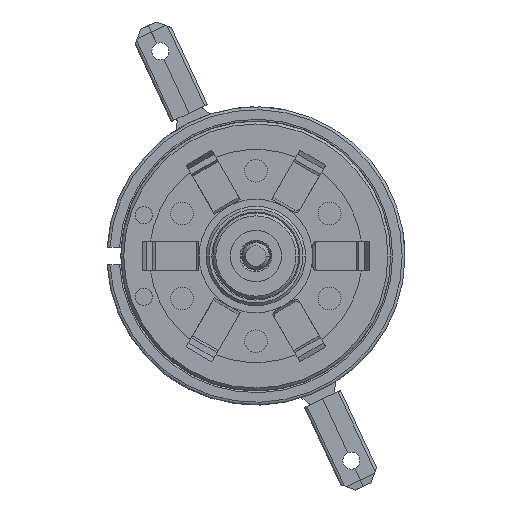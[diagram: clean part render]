
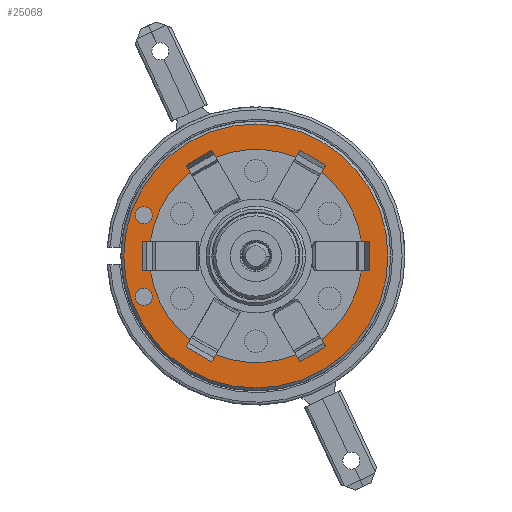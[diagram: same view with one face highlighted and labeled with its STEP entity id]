
A CAD part, left-side view. The second image highlights one B-rep face of the part: STEP entity #25068.
In plain terms, the highlighted planar face has unit normal (-1, 0, 0).
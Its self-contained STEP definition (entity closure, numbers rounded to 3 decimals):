
#7303=CARTESIAN_POINT('',(0.,0.,0.));
#7304=DIRECTION('',(-1.,0.,0.));
#7305=DIRECTION('',(0.,-1.,0.));
#7306=AXIS2_PLACEMENT_3D('',#7303,#7304,#7305);
#7311=CARTESIAN_POINT('',(0.,0.,0.));
#7312=DIRECTION('',(-1.,0.,0.));
#7313=DIRECTION('',(0.,1.,0.));
#7314=AXIS2_PLACEMENT_3D('',#7311,#7312,#7313);
#7319=CARTESIAN_POINT('',(0.,7.89,-2.87));
#7320=DIRECTION('',(1.,0.,0.));
#7321=DIRECTION('',(0.,1.,0.));
#7322=AXIS2_PLACEMENT_3D('',#7319,#7320,#7321);
#7327=CARTESIAN_POINT('',(0.,7.89,-2.87));
#7328=DIRECTION('',(1.,0.,0.));
#7329=DIRECTION('',(0.,-1.,0.));
#7330=AXIS2_PLACEMENT_3D('',#7327,#7328,#7329);
#7335=CARTESIAN_POINT('',(0.,7.89,2.87));
#7336=DIRECTION('',(1.,0.,0.));
#7337=DIRECTION('',(0.,1.,0.));
#7338=AXIS2_PLACEMENT_3D('',#7335,#7336,#7337);
#7343=CARTESIAN_POINT('',(0.,7.89,2.87));
#7344=DIRECTION('',(1.,0.,0.));
#7345=DIRECTION('',(0.,-1.,0.));
#7346=AXIS2_PLACEMENT_3D('',#7343,#7344,#7345);
#7351=DIRECTION('',(0.,-0.5,0.866));
#7352=VECTOR('',#7351,0.574);
#7353=CARTESIAN_POINT('',(0.,-4.622,5.906));
#7354=LINE('',#7353,#7352);
#7358=DIRECTION('',(0.,0.866,0.5));
#7359=VECTOR('',#7358,2.1);
#7360=CARTESIAN_POINT('',(0.,-4.909,6.403));
#7361=LINE('',#7360,#7359);
#7365=DIRECTION('',(0.,-0.5,0.866));
#7366=VECTOR('',#7365,0.574);
#7367=CARTESIAN_POINT('',(0.,-2.804,6.956));
#7368=LINE('',#7367,#7366);
#7372=DIRECTION('',(0.,0.5,0.866));
#7373=VECTOR('',#7372,0.574);
#7374=CARTESIAN_POINT('',(0.,2.804,6.956));
#7375=LINE('',#7374,#7373);
#7379=DIRECTION('',(0.,0.866,-0.5));
#7380=VECTOR('',#7379,2.1);
#7381=CARTESIAN_POINT('',(0.,3.091,7.453));
#7382=LINE('',#7381,#7380);
#7386=DIRECTION('',(0.,0.5,0.866));
#7387=VECTOR('',#7386,0.574);
#7388=CARTESIAN_POINT('',(0.,4.622,5.906));
#7389=LINE('',#7388,#7387);
#7393=DIRECTION('',(0.,1.,0.));
#7394=VECTOR('',#7393,0.574);
#7395=CARTESIAN_POINT('',(0.,7.426,1.05));
#7396=LINE('',#7395,#7394);
#7400=DIRECTION('',(0.,0.,-1.));
#7401=VECTOR('',#7400,2.1);
#7402=CARTESIAN_POINT('',(0.,8.,1.05));
#7403=LINE('',#7402,#7401);
#7407=DIRECTION('',(0.,1.,0.));
#7408=VECTOR('',#7407,0.574);
#7409=CARTESIAN_POINT('',(0.,7.426,-1.05));
#7410=LINE('',#7409,#7408);
#7414=DIRECTION('',(0.,-0.5,0.866));
#7415=VECTOR('',#7414,0.574);
#7416=CARTESIAN_POINT('',(0.,4.909,-6.403));
#7417=LINE('',#7416,#7415);
#7421=DIRECTION('',(0.,-0.866,-0.5));
#7422=VECTOR('',#7421,2.1);
#7423=CARTESIAN_POINT('',(0.,4.909,-6.403));
#7424=LINE('',#7423,#7422);
#7428=DIRECTION('',(0.,-0.5,0.866));
#7429=VECTOR('',#7428,0.574);
#7430=CARTESIAN_POINT('',(0.,3.091,-7.453));
#7431=LINE('',#7430,#7429);
#7435=DIRECTION('',(0.,0.5,0.866));
#7436=VECTOR('',#7435,0.574);
#7437=CARTESIAN_POINT('',(0.,-3.091,-7.453));
#7438=LINE('',#7437,#7436);
#7442=DIRECTION('',(0.,-0.866,0.5));
#7443=VECTOR('',#7442,2.1);
#7444=CARTESIAN_POINT('',(0.,-3.091,-7.453));
#7445=LINE('',#7444,#7443);
#7449=DIRECTION('',(0.,0.5,0.866));
#7450=VECTOR('',#7449,0.574);
#7451=CARTESIAN_POINT('',(0.,-4.909,-6.403));
#7452=LINE('',#7451,#7450);
#7456=DIRECTION('',(0.,1.,0.));
#7457=VECTOR('',#7456,0.574);
#7458=CARTESIAN_POINT('',(0.,-8.,-1.05));
#7459=LINE('',#7458,#7457);
#7463=DIRECTION('',(0.,0.,1.));
#7464=VECTOR('',#7463,2.1);
#7465=CARTESIAN_POINT('',(0.,-8.,-1.05));
#7466=LINE('',#7465,#7464);
#7470=DIRECTION('',(0.,1.,0.));
#7471=VECTOR('',#7470,0.574);
#7472=CARTESIAN_POINT('',(0.,-8.,1.05));
#7473=LINE('',#7472,#7471);
#8056=CARTESIAN_POINT('',(0.,0.,0.));
#8057=DIRECTION('',(1.,0.,0.));
#8058=DIRECTION('',(0.,-0.616,0.787));
#8059=AXIS2_PLACEMENT_3D('',#8056,#8057,#8058);
#8208=CARTESIAN_POINT('',(0.,0.,0.));
#8209=DIRECTION('',(1.,0.,0.));
#8210=DIRECTION('',(0.,-0.99,-0.14));
#8211=AXIS2_PLACEMENT_3D('',#8208,#8209,#8210);
#8514=CARTESIAN_POINT('',(0.,0.,0.));
#8515=DIRECTION('',(1.,0.,0.));
#8516=DIRECTION('',(0.,-0.374,-0.927));
#8517=AXIS2_PLACEMENT_3D('',#8514,#8515,#8516);
#8770=CARTESIAN_POINT('',(0.,0.,0.));
#8771=DIRECTION('',(1.,0.,0.));
#8772=DIRECTION('',(0.,0.616,-0.787));
#8773=AXIS2_PLACEMENT_3D('',#8770,#8771,#8772);
#8800=CARTESIAN_POINT('',(0.,0.,0.));
#8801=DIRECTION('',(1.,0.,0.));
#8802=DIRECTION('',(0.,0.99,0.14));
#8803=AXIS2_PLACEMENT_3D('',#8800,#8801,#8802);
#9056=CARTESIAN_POINT('',(0.,0.,0.));
#9057=DIRECTION('',(1.,0.,0.));
#9058=DIRECTION('',(0.,0.374,0.927));
#9059=AXIS2_PLACEMENT_3D('',#9056,#9057,#9058);
#15522=CARTESIAN_POINT('',(0.,-9.3,0.));
#15523=CARTESIAN_POINT('',(0.,9.3,0.));
#15524=VERTEX_POINT('',#15522);
#15525=VERTEX_POINT('',#15523);
#15538=CARTESIAN_POINT('',(0.,8.49,-2.87));
#15539=CARTESIAN_POINT('',(0.,7.29,-2.87));
#15540=VERTEX_POINT('',#15538);
#15541=VERTEX_POINT('',#15539);
#15542=CARTESIAN_POINT('',(0.,-8.,-1.05));
#15543=CARTESIAN_POINT('',(0.,-7.426,-1.05));
#15544=VERTEX_POINT('',#15542);
#15545=VERTEX_POINT('',#15543);
#15546=CARTESIAN_POINT('',(0.,-8.,1.05));
#15547=CARTESIAN_POINT('',(0.,-7.426,1.05));
#15548=VERTEX_POINT('',#15546);
#15549=VERTEX_POINT('',#15547);
#15606=CARTESIAN_POINT('',(0.,-3.091,-7.453));
#15607=CARTESIAN_POINT('',(0.,-2.804,-6.956));
#15608=VERTEX_POINT('',#15606);
#15609=VERTEX_POINT('',#15607);
#15610=CARTESIAN_POINT('',(0.,-4.909,-6.403));
#15611=CARTESIAN_POINT('',(0.,-4.622,-5.906));
#15612=VERTEX_POINT('',#15610);
#15613=VERTEX_POINT('',#15611);
#15622=CARTESIAN_POINT('',(0.,4.909,-6.403));
#15623=CARTESIAN_POINT('',(0.,4.622,-5.906));
#15624=VERTEX_POINT('',#15622);
#15625=VERTEX_POINT('',#15623);
#15626=CARTESIAN_POINT('',(0.,3.091,-7.453));
#15627=CARTESIAN_POINT('',(0.,2.804,-6.956));
#15628=VERTEX_POINT('',#15626);
#15629=VERTEX_POINT('',#15627);
#15682=CARTESIAN_POINT('',(0.,8.49,2.87));
#15683=CARTESIAN_POINT('',(0.,7.29,2.87));
#15684=VERTEX_POINT('',#15682);
#15685=VERTEX_POINT('',#15683);
#15742=CARTESIAN_POINT('',(0.,7.426,1.05));
#15743=CARTESIAN_POINT('',(0.,8.,1.05));
#15744=VERTEX_POINT('',#15742);
#15745=VERTEX_POINT('',#15743);
#15746=CARTESIAN_POINT('',(0.,7.426,-1.05));
#15747=CARTESIAN_POINT('',(0.,8.,-1.05));
#15748=VERTEX_POINT('',#15746);
#15749=VERTEX_POINT('',#15747);
#15766=CARTESIAN_POINT('',(0.,2.804,6.956));
#15767=CARTESIAN_POINT('',(0.,3.091,7.453));
#15768=VERTEX_POINT('',#15766);
#15769=VERTEX_POINT('',#15767);
#15770=CARTESIAN_POINT('',(0.,4.622,5.906));
#15771=CARTESIAN_POINT('',(0.,4.909,6.403));
#15772=VERTEX_POINT('',#15770);
#15773=VERTEX_POINT('',#15771);
#15790=CARTESIAN_POINT('',(0.,-4.622,5.906));
#15791=CARTESIAN_POINT('',(0.,-4.909,6.403));
#15792=VERTEX_POINT('',#15790);
#15793=VERTEX_POINT('',#15791);
#15794=CARTESIAN_POINT('',(0.,-2.804,6.956));
#15795=CARTESIAN_POINT('',(0.,-3.091,7.453));
#15796=VERTEX_POINT('',#15794);
#15797=VERTEX_POINT('',#15795);
#24998=CARTESIAN_POINT('',(0.,0.,0.));
#24999=DIRECTION('',(1.,0.,0.));
#25000=DIRECTION('',(0.,-1.,0.));
#25001=AXIS2_PLACEMENT_3D('',#24998,#24999,#25000);
#25002=PLANE('',#25001);
#25004=ORIENTED_EDGE('',*,*,#25003,.F.);
#25006=ORIENTED_EDGE('',*,*,#25005,.F.);
#25007=EDGE_LOOP('',(#25004,#25006));
#25008=FACE_OUTER_BOUND('',#25007,.F.);
#25010=ORIENTED_EDGE('',*,*,#25009,.F.);
#25012=ORIENTED_EDGE('',*,*,#25011,.F.);
#25013=EDGE_LOOP('',(#25010,#25012));
#25014=FACE_BOUND('',#25013,.F.);
#25016=ORIENTED_EDGE('',*,*,#25015,.F.);
#25018=ORIENTED_EDGE('',*,*,#25017,.F.);
#25019=EDGE_LOOP('',(#25016,#25018));
#25020=FACE_BOUND('',#25019,.F.);
#25022=ORIENTED_EDGE('',*,*,#25021,.T.);
#25024=ORIENTED_EDGE('',*,*,#25023,.T.);
#25026=ORIENTED_EDGE('',*,*,#25025,.F.);
#25028=ORIENTED_EDGE('',*,*,#25027,.F.);
#25030=ORIENTED_EDGE('',*,*,#25029,.T.);
#25032=ORIENTED_EDGE('',*,*,#25031,.T.);
#25034=ORIENTED_EDGE('',*,*,#25033,.F.);
#25036=ORIENTED_EDGE('',*,*,#25035,.F.);
#25037=ORIENTED_EDGE('',*,*,#23085,.T.);
#25038=ORIENTED_EDGE('',*,*,#24985,.T.);
#25039=ORIENTED_EDGE('',*,*,#23027,.F.);
#25041=ORIENTED_EDGE('',*,*,#25040,.F.);
#25043=ORIENTED_EDGE('',*,*,#25042,.F.);
#25045=ORIENTED_EDGE('',*,*,#25044,.T.);
#25047=ORIENTED_EDGE('',*,*,#25046,.T.);
#25049=ORIENTED_EDGE('',*,*,#25048,.F.);
#25051=ORIENTED_EDGE('',*,*,#25050,.F.);
#25053=ORIENTED_EDGE('',*,*,#25052,.T.);
#25055=ORIENTED_EDGE('',*,*,#25054,.T.);
#25057=ORIENTED_EDGE('',*,*,#25056,.F.);
#25059=ORIENTED_EDGE('',*,*,#25058,.F.);
#25061=ORIENTED_EDGE('',*,*,#25060,.T.);
#25063=ORIENTED_EDGE('',*,*,#25062,.T.);
#25065=ORIENTED_EDGE('',*,*,#25064,.F.);
#25066=EDGE_LOOP('',(#25022,#25024,#25026,#25028,#25030,#25032,#25034,#25036,
#25037,#25038,#25039,#25041,#25043,#25045,#25047,#25049,#25051,#25053,#25055,
#25057,#25059,#25061,#25063,#25065));
#25067=FACE_BOUND('',#25066,.F.);
#25068=ADVANCED_FACE('',(#25008,#25014,#25020,#25067),#25002,.F.);
#7307=CIRCLE('',#7306,9.3);
#7315=CIRCLE('',#7314,9.3);
#7323=CIRCLE('',#7322,0.6);
#7331=CIRCLE('',#7330,0.6);
#7339=CIRCLE('',#7338,0.6);
#7347=CIRCLE('',#7346,0.6);
#8060=CIRCLE('',#8059,7.5);
#8212=CIRCLE('',#8211,7.5);
#8518=CIRCLE('',#8517,7.5);
#8774=CIRCLE('',#8773,7.5);
#8804=CIRCLE('',#8803,7.5);
#9060=CIRCLE('',#9059,7.5);
#23027=EDGE_CURVE('',#15748,#15749,#7410,.T.);
#23085=EDGE_CURVE('',#15744,#15745,#7396,.T.);
#24985=EDGE_CURVE('',#15745,#15749,#7403,.T.);
#25003=EDGE_CURVE('',#15524,#15525,#7307,.T.);
#25005=EDGE_CURVE('',#15525,#15524,#7315,.T.);
#25009=EDGE_CURVE('',#15540,#15541,#7323,.T.);
#25011=EDGE_CURVE('',#15541,#15540,#7331,.T.);
#25015=EDGE_CURVE('',#15684,#15685,#7339,.T.);
#25017=EDGE_CURVE('',#15685,#15684,#7347,.T.);
#25021=EDGE_CURVE('',#15792,#15793,#7354,.T.);
#25023=EDGE_CURVE('',#15793,#15797,#7361,.T.);
#25025=EDGE_CURVE('',#15796,#15797,#7368,.T.);
#25027=EDGE_CURVE('',#15768,#15796,#9060,.T.);
#25029=EDGE_CURVE('',#15768,#15769,#7375,.T.);
#25031=EDGE_CURVE('',#15769,#15773,#7382,.T.);
#25033=EDGE_CURVE('',#15772,#15773,#7389,.T.);
#25035=EDGE_CURVE('',#15744,#15772,#8804,.T.);
#25040=EDGE_CURVE('',#15625,#15748,#8774,.T.);
#25042=EDGE_CURVE('',#15624,#15625,#7417,.T.);
#25044=EDGE_CURVE('',#15624,#15628,#7424,.T.);
#25046=EDGE_CURVE('',#15628,#15629,#7431,.T.);
#25048=EDGE_CURVE('',#15609,#15629,#8518,.T.);
#25050=EDGE_CURVE('',#15608,#15609,#7438,.T.);
#25052=EDGE_CURVE('',#15608,#15612,#7445,.T.);
#25054=EDGE_CURVE('',#15612,#15613,#7452,.T.);
#25056=EDGE_CURVE('',#15545,#15613,#8212,.T.);
#25058=EDGE_CURVE('',#15544,#15545,#7459,.T.);
#25060=EDGE_CURVE('',#15544,#15548,#7466,.T.);
#25062=EDGE_CURVE('',#15548,#15549,#7473,.T.);
#25064=EDGE_CURVE('',#15792,#15549,#8060,.T.);
